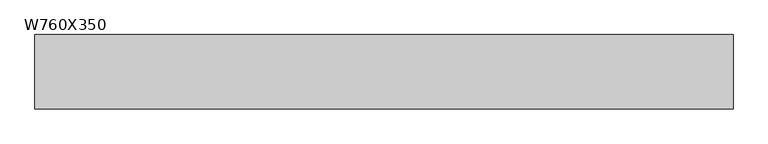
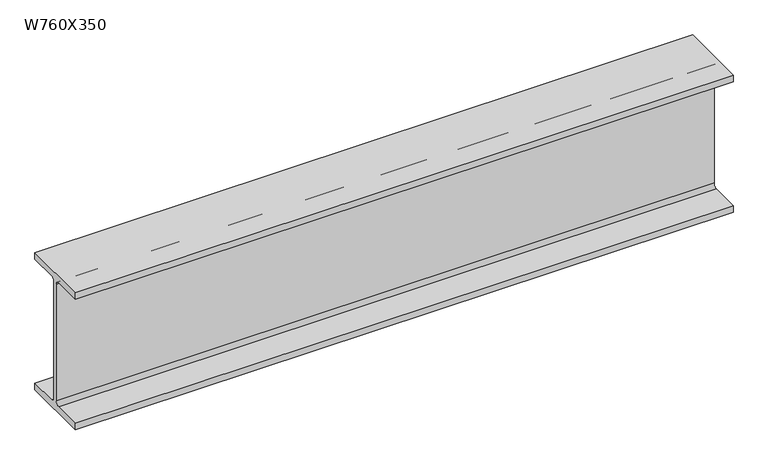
"""IFC4 building model written with IfcOpenShell, lengths in millimetres: beam geometry, M_W-Wide Flange : W760X350."""

from ifc_helpers import new_model, si_unit, point, frame, frame_2d, origin, place, context, project, spatial, polyline, circle_curve, trimmed, segment, composite_curve, outline, extrude, source, transform, mapped, element, save


def w760x350_b96b6d01(model_context):
    return source(origin(), model_context, "Body", "SweptSolid", [
        extrude(outline(composite_curve([segment(polyline([(192.0, -359.4), (192.0, -397.5), (-192.0, -397.5), (-192.0, -359.4), (-32.75, -359.4)]), True, "CONTINUOUS"), segment(trimmed(circle_curve(frame_2d((-32.75, -337.2)), 22.2), [point((-32.75, -359.4))], [point((-10.55, -337.2))], True, "CARTESIAN"), True, "CONTINUOUS"), segment(polyline([(-10.55, -337.2), (-10.55, 337.2)]), True, "CONTINUOUS"), segment(trimmed(circle_curve(frame_2d((-32.75, 337.2)), 22.2), [point((-10.55, 337.2))], [point((-32.75, 359.4))], True, "CARTESIAN"), True, "CONTINUOUS"), segment(polyline([(-32.75, 359.4), (-192.0, 359.4), (-192.0, 397.5), (192.0, 397.5), (192.0, 359.4), (32.75, 359.4)]), True, "CONTINUOUS"), segment(trimmed(circle_curve(frame_2d((32.75, 337.2)), 22.2), [point((32.75, 359.4))], [point((10.55, 337.2))], True, "CARTESIAN"), True, "CONTINUOUS"), segment(polyline([(10.55, 337.2), (10.55, -337.2)]), True, "CONTINUOUS"), segment(trimmed(circle_curve(frame_2d((32.75, -337.2)), 22.2), [point((10.55, -337.2))], [point((32.75, -359.4))], True, "CARTESIAN"), True, "CONTINUOUS"), segment(polyline([(32.75, -359.4), (192.0, -359.4)]), True, "CONTINUOUS")], self_intersect=False)), frame((-1774.5503951, 0.0, 0.0), z_axis=(1.0, 0.0, 0.0), x_axis=(0.0, 1.0, 0.0)), (0.0, 0.0, 1.0), 3609.7474552),
    ])


if __name__ == "__main__":
    model = new_model("IFC4")
    model_context = context("Model", 3, world=origin())
    ifc_project = project(units=[si_unit("LENGTHUNIT", "METRE", prefix="MILLI")], contexts=[model_context])
    site = spatial("IfcSite", under=ifc_project)
    building = spatial("IfcBuilding", under=site)
    placement = place(None, origin())
    w760x350_shape = w760x350_b96b6d01(model_context)
    element("IfcBeam", 1, ObjectType="M_W-Wide Flange : W760X350", at=placement, inside=building, context=model_context, shape_type="MappedRepresentation", body=[
        mapped(w760x350_shape, transform((0.0, 0.0, 0.0), x_axis=(1.0, 0.0, 0.0), y_axis=(0.0, 1.0, 0.0), z_axis=(0.0, 0.0, 1.0))),
    ])
    save(model, "model.ifc")
